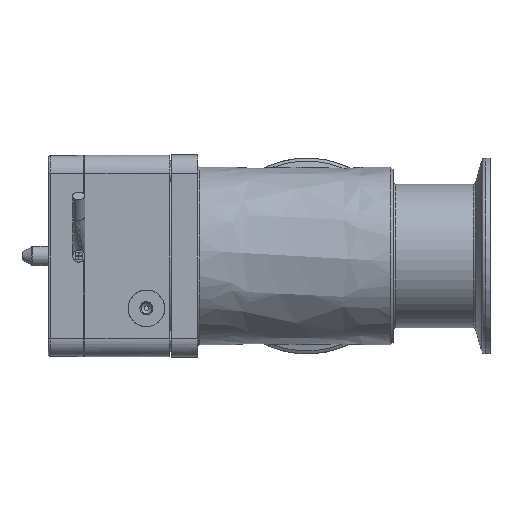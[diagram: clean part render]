
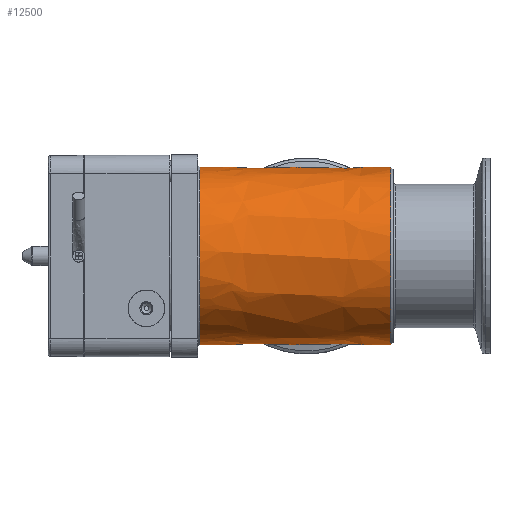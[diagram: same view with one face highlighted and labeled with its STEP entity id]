
A CAD part, left-side view. The second image highlights one B-rep face of the part: STEP entity #12500.
In plain terms, the highlighted free-form (B-spline) face has degree [2, 1] with [7, 2] control points.
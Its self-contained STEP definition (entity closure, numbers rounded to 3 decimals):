
#11179=CARTESIAN_POINT('V31',(38.,33.95,
   0.0));
#11180=VERTEX_POINT('V31',#11179);
#11188=CARTESIAN_POINT('E54',(38.,33.95,
   0.));
#11189=CARTESIAN_POINT('E54',(38.,33.95,
   58.803));
#11190=CARTESIAN_POINT('E54',(38.,-16.975,
   29.402));
#11191=CARTESIAN_POINT('E54',(38.,-67.9,
   0.));
#11192=CARTESIAN_POINT('E54',(38.,-16.975,
   -29.402));
#11193=CARTESIAN_POINT('E54',(38.,33.95,
   -58.803));
#11194=CARTESIAN_POINT('E54',(38.,33.95,
   0.));
#11202=(BOUNDED_CURVE()B_SPLINE_CURVE(2,(#11188,#11189,#11190,
   #11191,#11192,#11193,#11194),.CIRCULAR_ARC.,.T.,.U.)
   B_SPLINE_CURVE_WITH_KNOTS((3,2,2,3),(2.0,50.798,
   99.595,148.393),.UNSPECIFIED.)CURVE()
   GEOMETRIC_REPRESENTATION_ITEM()RATIONAL_B_SPLINE_CURVE((1.0,
   0.5,1.0,0.5,1.0,0.5,1.0)
   )REPRESENTATION_ITEM('E54'));
#11203=EDGE_CURVE('E54',#11180,#11180,#11202,.T.);
#11250=CARTESIAN_POINT('V16',(111.025,33.95,
   0.0));
#11251=VERTEX_POINT('V16',#11250);
#11275=CARTESIAN_POINT('E25',(111.025,33.95,
   0.0));
#11276=CARTESIAN_POINT('E25',(111.025,33.95,
   -58.803));
#11277=CARTESIAN_POINT('E25',(111.025,
   -16.975,-29.402));
#11278=CARTESIAN_POINT('E25',(111.025,
   -67.9,0.));
#11279=CARTESIAN_POINT('E25',(111.025,
   -16.975,29.402));
#11280=CARTESIAN_POINT('E25',(111.025,33.95,
   58.803));
#11281=CARTESIAN_POINT('E25',(111.025,33.95,
   0.0));
#11289=(BOUNDED_CURVE()B_SPLINE_CURVE(2,(#11275,#11276,#11277,
   #11278,#11279,#11280,#11281),.CIRCULAR_ARC.,.T.,.U.)
   B_SPLINE_CURVE_WITH_KNOTS((3,2,2,3),(0.0,108.528,
   217.056,325.585),.UNSPECIFIED.)CURVE()
   GEOMETRIC_REPRESENTATION_ITEM()RATIONAL_B_SPLINE_CURVE((1.0,
   0.5,1.0,0.5,1.0,0.5,1.0)
   )REPRESENTATION_ITEM('E25'));
#11290=EDGE_CURVE('E25',#11251,#11251,#11289,.T.);
#12401=CARTESIAN_POINT('F23',(37.,33.95,
   0.0));
#12402=CARTESIAN_POINT('F23',(37.,33.95,
   58.803));
#12403=CARTESIAN_POINT('F23',(37.,-16.975,
   29.402));
#12404=CARTESIAN_POINT('F23',(37.,-67.9,
   0.));
#12405=CARTESIAN_POINT('F23',(37.,-16.975,
   -29.402));
#12406=CARTESIAN_POINT('F23',(37.,33.95,
   -58.803));
#12407=CARTESIAN_POINT('F23',(37.,33.95,
   0.0));
#12408=CARTESIAN_POINT('F23',(111.025,33.95,
   0.0));
#12409=CARTESIAN_POINT('F23',(111.025,33.95,
   58.803));
#12410=CARTESIAN_POINT('F23',(111.025,
   -16.975,29.402));
#12411=CARTESIAN_POINT('F23',(111.025,
   -67.9,0.));
#12412=CARTESIAN_POINT('F23',(111.025,
   -16.975,-29.402));
#12413=CARTESIAN_POINT('F23',(111.025,33.95,
   -58.803));
#12414=CARTESIAN_POINT('F23',(111.025,33.95,
   0.0));
#12422=(BOUNDED_SURFACE()B_SPLINE_SURFACE(2,1,((#12401,#12408),(
   #12402,#12409),(#12403,#12410),(#12404,#12411),(#12405,
   #12412),(#12406,#12413),(#12407,#12414)),.CYLINDRICAL_SURF.,
   .T.,.F.,.U.)B_SPLINE_SURFACE_WITH_KNOTS((3,2,2,3),(2,2),(0.0,
   1.589,3.177,4.766),(0.0,1.0),
   .UNSPECIFIED.)GEOMETRIC_REPRESENTATION_ITEM()
   RATIONAL_B_SPLINE_SURFACE(((1.0,1.0),(0.5,
   0.5),(1.0,1.0),(0.5,
   0.5),(1.0,1.0),(0.5,
   0.5),(1.0,1.0)))REPRESENTATION_ITEM('F23')SURFACE(
   ));
#12423=ORIENTED_EDGE('E54',*,*,#11203,.F.);
#12424=CARTESIAN_POINT('V26',(45.,33.95,
   0.0));
#12425=VERTEX_POINT('V26',#12424);
#12426=CARTESIAN_POINT('E42',(45.,33.95,
   0.0));
#12427=CARTESIAN_POINT('E42',(38.,33.95,
   0.0));
#12428=B_SPLINE_CURVE_WITH_KNOTS('E42',1,(#12426,#12427),
   .POLYLINE_FORM.,.F.,.U.,(2,2),(0.892,
   0.986),.UNSPECIFIED.);
#12429=EDGE_CURVE('E42',#12425,#11180,#12428,.T.);
#12430=ORIENTED_EDGE('E42',*,*,#12429,.F.);
#12431=CARTESIAN_POINT('V25',(70.,22.97,
   25.));
#12432=VERTEX_POINT('V25',#12431);
#12433=CARTESIAN_POINT('E41',(70.,22.97,
   25.));
#12434=CARTESIAN_POINT('E41',(69.194,22.97,
   25.));
#12435=CARTESIAN_POINT('E41',(68.392,23.012,
   24.961));
#12436=CARTESIAN_POINT('E41',(64.529,23.415,
   24.588));
#12437=CARTESIAN_POINT('E41',(61.719,24.315,
   23.745));
#12438=CARTESIAN_POINT('E41',(55.728,26.853,
   20.895));
#12439=CARTESIAN_POINT('E41',(52.376,28.886,
   18.277));
#12440=CARTESIAN_POINT('E41',(47.986,31.787,
   12.232));
#12441=CARTESIAN_POINT('E41',(46.451,32.891,
   9.169));
#12442=CARTESIAN_POINT('E41',(45.213,33.792,
   3.752));
#12443=CARTESIAN_POINT('E41',(45.,33.95,
   1.886));
#12444=CARTESIAN_POINT('E41',(45.,33.95,
   0.0));
#12445=B_SPLINE_CURVE_WITH_KNOTS('E41',3,(#12433,#12434,#12435,
   #12436,#12437,#12438,#12439,#12440,#12441,#12442,#12443,#12444),
   .UNSPECIFIED.,.F.,.U.,(4,2,2,2,2,4),(0.0,0.062,
   0.301,0.645,0.881,1.0),
   .UNSPECIFIED.);
#12446=EDGE_CURVE('E41',#12432,#12425,#12445,.T.);
#12447=ORIENTED_EDGE('E41',*,*,#12446,.F.);
#12448=CARTESIAN_POINT('V27',(95.,33.95,
   0.0));
#12449=VERTEX_POINT('V27',#12448);
#12450=CARTESIAN_POINT('E45',(95.,33.95,
   0.0));
#12451=CARTESIAN_POINT('E45',(95.,33.95,
   1.622));
#12452=CARTESIAN_POINT('E45',(94.842,33.833,
   3.23));
#12453=CARTESIAN_POINT('E45',(93.819,33.086,
   8.457));
#12454=CARTESIAN_POINT('E45',(92.366,32.035,
   11.572));
#12455=CARTESIAN_POINT('E45',(88.345,29.346,
   17.476));
#12456=CARTESIAN_POINT('E45',(85.368,27.496,
   20.048));
#12457=CARTESIAN_POINT('E45',(79.872,24.916,
   23.124));
#12458=CARTESIAN_POINT('E45',(77.277,23.941,
   24.082));
#12459=CARTESIAN_POINT('E45',(73.032,23.123,
   24.861));
#12460=CARTESIAN_POINT('E45',(71.528,22.97,
   25.));
#12461=CARTESIAN_POINT('E45',(70.,22.97,
   25.));
#12462=B_SPLINE_CURVE_WITH_KNOTS('E45',3,(#12450,#12451,#12452,
   #12453,#12454,#12455,#12456,#12457,#12458,#12459,#12460,#12461),
   .UNSPECIFIED.,.F.,.U.,(4,2,2,2,2,4),(0.0,0.099,
   0.33,0.643,0.876,1.0),
   .UNSPECIFIED.);
#12463=EDGE_CURVE('E45',#12449,#12432,#12462,.T.);
#12464=ORIENTED_EDGE('E45',*,*,#12463,.F.);
#12465=CARTESIAN_POINT('E44',(111.025,33.95,
   0.0));
#12466=CARTESIAN_POINT('E44',(95.,33.95,
   0.0));
#12467=B_SPLINE_CURVE_WITH_KNOTS('E44',1,(#12465,#12466),
   .POLYLINE_FORM.,.F.,.U.,(2,2),(0.0,0.216),
   .UNSPECIFIED.);
#12468=EDGE_CURVE('E44',#11251,#12449,#12467,.T.);
#12469=ORIENTED_EDGE('E44',*,*,#12468,.F.);
#12470=ORIENTED_EDGE('F14',*,*,#11290,.F.);
#12471=ORIENTED_EDGE('E44',*,*,#12468,.T.);
#12472=CARTESIAN_POINT('E43',(45.,33.95,
   0.0));
#12473=CARTESIAN_POINT('E43',(45.,33.95,
   -2.391));
#12474=CARTESIAN_POINT('E43',(45.342,33.696,
   -4.743));
#12475=CARTESIAN_POINT('E43',(46.468,32.882,
   -8.605));
#12476=CARTESIAN_POINT('E43',(47.088,32.438,
   -10.134));
#12477=CARTESIAN_POINT('E43',(49.802,30.554,
   -15.33));
#12478=CARTESIAN_POINT('E43',(52.539,28.745,
   -18.255));
#12479=CARTESIAN_POINT('E43',(58.41,25.609,
   -22.439));
#12480=CARTESIAN_POINT('E43',(61.776,24.142,
   -23.89));
#12481=CARTESIAN_POINT('E43',(66.996,23.11,
   -24.874));
#12482=CARTESIAN_POINT('E43',(68.653,22.947,
   -25.021));
#12483=CARTESIAN_POINT('E43',(71.941,22.996,
   -24.976));
#12484=CARTESIAN_POINT('E43',(73.509,23.188,
   -24.802));
#12485=CARTESIAN_POINT('E43',(77.872,24.123,
   -23.903));
#12486=CARTESIAN_POINT('E43',(80.535,25.184,
   -22.844));
#12487=CARTESIAN_POINT('E43',(85.904,27.818,
   -19.599));
#12488=CARTESIAN_POINT('E43',(88.695,29.572,
   -17.062));
#12489=CARTESIAN_POINT('E43',(92.37,32.043,
   -11.49));
#12490=CARTESIAN_POINT('E43',(93.647,32.963,
   -8.741));
#12491=CARTESIAN_POINT('E43',(94.787,33.792,
   -3.752));
#12492=CARTESIAN_POINT('E43',(95.,33.95,
   -1.886));
#12493=CARTESIAN_POINT('E43',(95.,33.95,
   0.0));
#12494=B_SPLINE_CURVE_WITH_KNOTS('E43',3,(#12472,#12473,#12474,
   #12475,#12476,#12477,#12478,#12479,#12480,#12481,#12482,#12483,
   #12484,#12485,#12486,#12487,#12488,#12489,#12490,#12491,#12492,
   #12493),.UNSPECIFIED.,.F.,.U.,(4,2,2,2,2,2,2,2,2,2,4),(0.0,
   0.082,0.14,0.292,
   0.442,0.51,0.574,
   0.693,0.84,0.942,1.0),
   .UNSPECIFIED.);
#12495=EDGE_CURVE('E43',#12425,#12449,#12494,.T.);
#12496=ORIENTED_EDGE('E43',*,*,#12495,.F.);
#12497=ORIENTED_EDGE('E42',*,*,#12429,.T.);
#12498=EDGE_LOOP('F23',(#12423,#12430,#12447,#12464,#12469,#12470,
   #12471,#12496,#12497));
#12499=FACE_OUTER_BOUND('F23',#12498,.F.);
#12500=ADVANCED_FACE('F23',(#12499),#12422,.T.);
